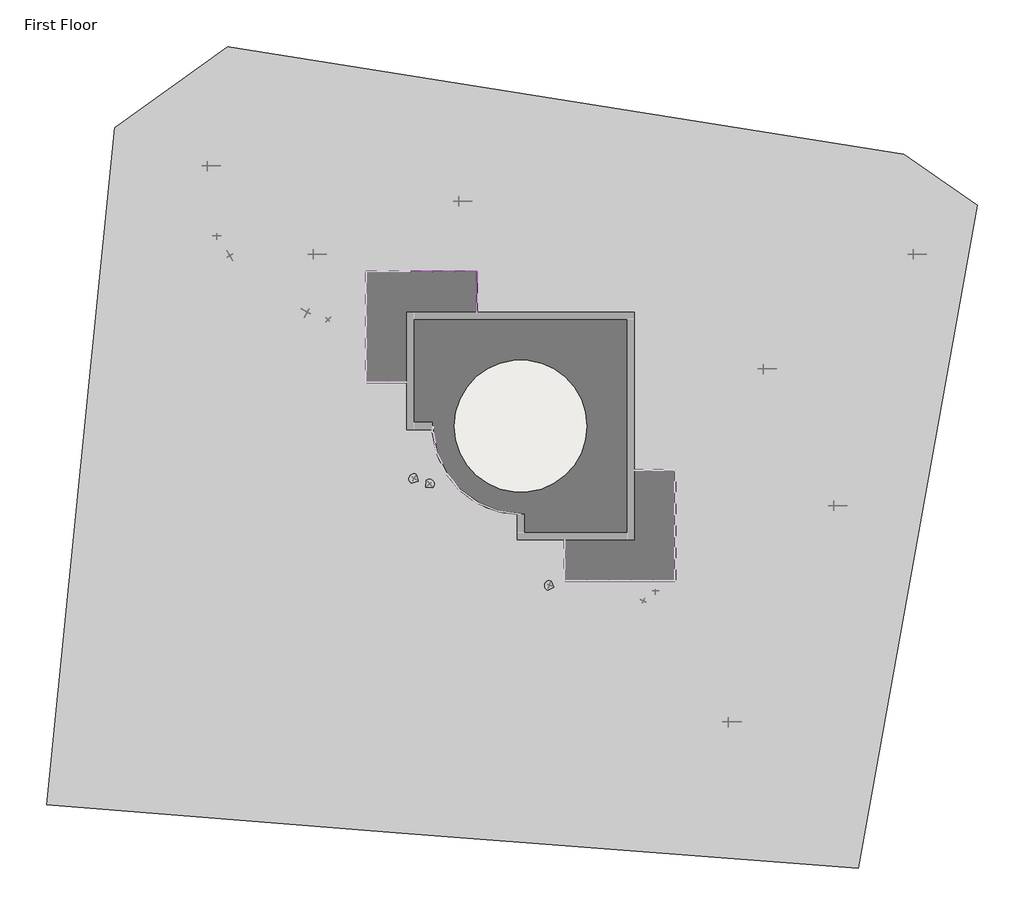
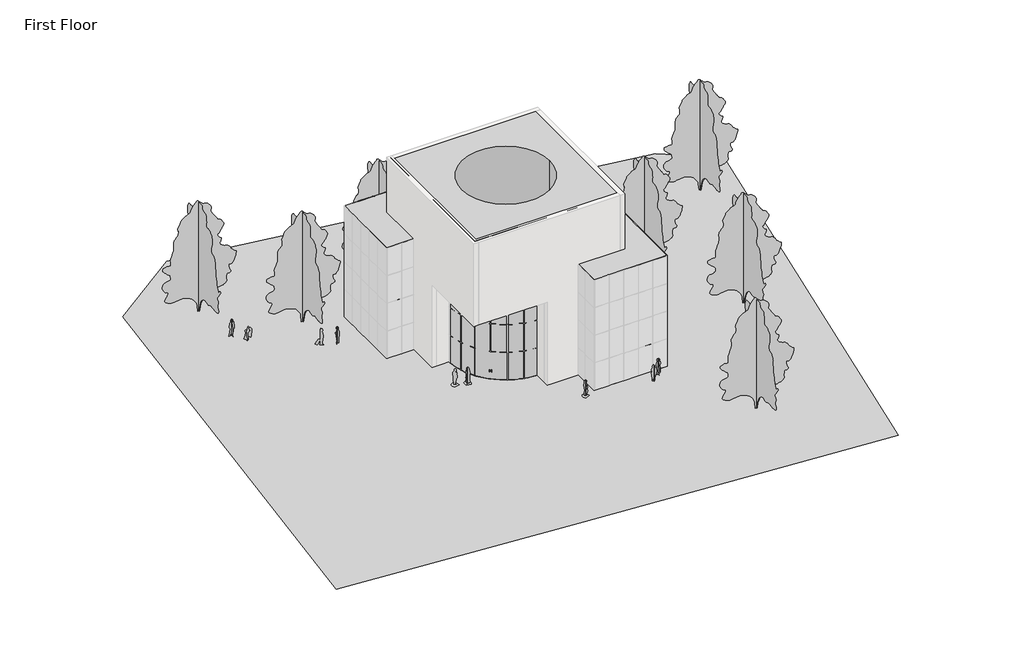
# One storey, part 5 of 5: 46 members, 16 plates, 12 proxies, 7 geographic elements, 4 slabs.
"""IFC4 building model written with IfcOpenShell, lengths in millimetres."""

from ifc_helpers import new_model, si_unit, point, frame, frame_2d, origin, origin_with_axes, place, context, project, spatial, polyline, circle_curve, trimmed, segment, composite_curve, outline, extrude, triangles, transform, mapped, element, save
from ifc_brep_helpers import plane_surface, cylinder_surface, revolved_surface, advanced_brep
from components import rpc_female_69e001fa, rpc_female_16ef0111, rpc_female_936a91ee, rpc_female_6119fb87, rpc_female_692637f3, rpc_male_28878092, rpc_male_2293c1c2, rpc_male_04e7faa4, rpc_tree_deciduous_lombardy_poplar_40_01077960, member_5e617a80, member_74941792, member_cbdb9076, member_7e523723, member_9fd3d903, member_6604d1e0, member_e0356dda, member_be0b070d, system_panel_glazed_9b7d687a, system_panel_glazed_9a901b4a, system_panel_glazed_2d5e1d3d, system_panel_glazed_37964ea6

model = new_model("IFC4")

# Units and contexts
model_context = context("Model", 3, world=origin())
ifc_project = project(units=[si_unit("LENGTHUNIT", "METRE", prefix="MILLI")], contexts=[model_context])

# Site, building, storey
site = spatial("IfcSite", under=ifc_project)
building = spatial("IfcBuilding", under=site)
storey = spatial("IfcBuildingStorey", under=building, Name="First Floor", Elevation=0.0)

# Proxies
placement = place(None, origin())
element("IfcBuildingElementProxy", 1, Name="Building Element Proxy", at=placement, inside=storey, context=model_context, shape_type="Tessellation", body=[
    triangles([(-30509.1400818, 19941.1409546, 0.0), (-31041.435498, -3413.2527054, 0.0), (-35218.2875244, -26825.7393311, 0.0), (-11096.4610565, -28781.5641357, 0.0), (20838.7117493, -31207.7044189, 0.0), (11856.2995605, -16582.4657318, 0.0), (17984.5475922, -6542.5709976, 0.0), (23509.9370728, 707.8938549, 0.0), (29082.4457703, 14569.5851074, 0.0), (23982.4059082, 18100.8079376, 0.0), (15246.3937958, 15623.4312469, 0.0), (1294.8513416, 15362.655304, 0.0), (-22696.5867188, 25532.9391724, 0.0)], [[3, 4, 2], [12, 2, 6], [3, 2, 1], [1, 12, 13], [12, 1, 2], [13, 12, 10], [2, 4, 6], [6, 5, 7], [5, 6, 4], [7, 5, 8], [7, 11, 12], [11, 8, 10], [8, 11, 7], [9, 10, 8], [8, 5, 9], [11, 10, 12], [7, 12, 6]], closed=False),
])
element("IfcBuildingElementProxy", 2, Name="Central Hall : Central Hall", ObjectType="Central Hall : Central Hall", at=placement, inside=storey, context=model_context, shape_type="AdvancedBrep", body=[
    advanced_brep(
    [(5148.8943843, 6934.0139224, 18288.0), (-10091.1056157, 6934.0139224, 18288.0), (-10091.1056157, -8305.9860776, 18288.0), (5148.8943843, -8305.9860776, 18288.0), (2100.8943843, -685.9860776, 18288.0), (-7043.1056157, -685.9860776, 18288.0), (5148.8943843, 6934.0139224, 0.0), (5148.8943843, -8305.9860776, 0.0), (-2471.1056157, -8305.9860776, 0.0), (-2471.1056157, -6781.9860776, 0.0), (-8567.1056157, -685.9860776, 0.0), (-10091.1056157, -685.9860776, 0.0), (-10091.1056157, 6934.0139224, 0.0), (-7043.1056157, -685.9860776, 0.0), (2100.8943843, -685.9860776, 0.0), (-10091.1056157, -685.9860776, 9144.0), (-10091.1056157, -8305.9860776, 9144.0), (-2471.1056157, -8305.9860776, 9144.0), (-2471.1056157, -6781.9860776, 9144.0), (-8567.1056157, -685.9860776, 9144.0)],
    [
        (0, 1),
        (1, 2),
        (2, 3),
        (3, 0),
        (4, 5, circle_curve(frame((-2471.1056157, -685.9860776, 18288.0), z_axis=(0.0, 0.0, -1.0), x_axis=(1.0, 0.0, 0.0)), 4572.0)),
        (5, 4, circle_curve(frame((-2471.1056157, -685.9860776, 18288.0), z_axis=(0.0, 0.0, -1.0), x_axis=(1.0, 0.0, 0.0)), 4572.0)),
        (6, 7),
        (7, 8),
        (8, 9),
        (9, 10, circle_curve(frame((-2471.1056157, -685.9860776, 0.0), z_axis=(0.0, 0.0, -1.0), x_axis=(1.0, 0.0, 0.0)), 6096.0)),
        (10, 11),
        (11, 12),
        (12, 6),
        (13, 14, circle_curve(frame((-2471.1056157, -685.9860776, 0.0), z_axis=(0.0, 0.0, 1.0), x_axis=(1.0, 0.0, 0.0)), 4572.0)),
        (14, 13, circle_curve(frame((-2471.1056157, -685.9860776, 0.0), z_axis=(0.0, 0.0, 1.0), x_axis=(1.0, 0.0, 0.0)), 4572.0)),
        (0, 6),
        (12, 1),
        (11, 15),
        (15, 16),
        (16, 2),
        (16, 17),
        (17, 8),
        (7, 3),
        (4, 14),
        (13, 5),
        (18, 17),
        (15, 19),
        (19, 18, circle_curve(frame((-2471.1056157, -685.9860776, 9144.0), z_axis=(0.0, 0.0, 1.0), x_axis=(1.0, 0.0, 0.0)), 6096.0)),
        (19, 10),
        (9, 18),
    ],
    [
        plane_surface(frame((-10091.1056157, 6934.0139224, 18288.0), z_axis=(0.0, 0.0, 1.0), x_axis=(-1.0, 0.0, 0.0))),
        plane_surface(frame((-10091.1056157, 6934.0139224, 0.0), z_axis=(0.0, 0.0, -1.0), x_axis=(1.0, 0.0, 0.0))),
        plane_surface(frame((5148.8943843, 6934.0139224, 18288.0), z_axis=(0.0, 1.0, 0.0), x_axis=(0.0, 0.0, -1.0))),
        plane_surface(frame((-10091.1056157, 6934.0139224, 18288.0), z_axis=(-1.0, 0.0, 0.0), x_axis=(0.0, 0.0, -1.0))),
        plane_surface(frame((-10091.1056157, -8305.9860776, 18288.0), z_axis=(0.0, -1.0, 0.0), x_axis=(0.0, 0.0, -1.0))),
        plane_surface(frame((5148.8943843, -8305.9860776, 18288.0), z_axis=(1.0, 0.0, 0.0), x_axis=(0.0, 0.0, -1.0))),
        revolved_surface(polyline([(2100.8943843, -685.9860776, 18288.0), (2100.8943843, -685.9860776, 0.0)]), (-2471.1056157, -685.9860776, 0.0), (0.0, 0.0, 1.0)),
        plane_surface(frame((3624.8943843, -685.9860776, 9144.0), z_axis=(0.0, 0.0, -1.0), x_axis=(0.0, -1.0, 0.0))),
        cylinder_surface(frame((-2471.1056157, -685.9860776, 0.0), z_axis=(0.0, 0.0, -1.0), x_axis=(1.0, 0.0, 0.0)), 6096.0),
        plane_surface(frame((-8567.1056157, -685.9860776, 9144.0), z_axis=(0.0, -1.0, 0.0), x_axis=(0.0, 0.0, -1.0))),
        plane_surface(frame((-2471.1056157, -8305.9860776, 9144.0), z_axis=(-1.0, 0.0, 0.0), x_axis=(0.0, 0.0, -1.0))),
    ],
    [
        (0, [[1, 2, 3, 4], [5, 6]]),
        (1, [[7, 8, 9, 10, 11, 12, 13], [14, 15]]),
        (2, [[-1, 16, -13, 17]]),
        (3, [[-2, -17, -12, 18, 19, 20]]),
        (4, [[-3, -20, 21, 22, -8, 23]]),
        (5, [[-4, -23, -7, -16]]),
        (6, [[24, -14, 25, -5]]),
        (6, [[-24, -6, -25, -15]]),
        (7, [[26, -21, -19, 27, 28]]),
        (8, [[-28, 29, -10, 30]]),
        (9, [[-27, -18, -11, -29]]),
        (10, [[-26, -30, -9, -22]]),
    ],
),
])
rpc_female_shape = rpc_female_69e001fa(model_context)
element("IfcBuildingElementProxy", 3, Name="RPC Female : Cynthia", ObjectType="RPC Female : Cynthia", at=placement, inside=storey, context=model_context, shape_type="MappedRepresentation", body=[
    mapped(rpc_female_shape, transform((-22638.0584336, 11228.1519874, 0.0), x_axis=(-0.866025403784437, -0.5000000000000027, 0.0), y_axis=(0.5000000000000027, -0.866025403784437, 0.0), z_axis=(0.0, 0.0, 1.0))),
])
rpc_female_2_shape = rpc_female_16ef0111(model_context)
element("IfcBuildingElementProxy", 4, Name="RPC Female : Cathy", ObjectType="RPC Female : Cathy", at=placement, inside=storey, context=model_context, shape_type="MappedRepresentation", body=[
    mapped(rpc_female_2_shape, transform((-17350.8475885, 7178.4889224, 0.0), x_axis=(0.49024578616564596, 0.8715842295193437, 0.0), y_axis=(-0.8715842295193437, 0.49024578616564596, 0.0), z_axis=(0.0, 0.0, 1.0))),
])
rpc_female_3_shape = rpc_female_936a91ee(model_context)
element("IfcBuildingElementProxy", 5, Name="RPC Female : Tina", ObjectType="RPC Female : Tina", at=placement, inside=storey, context=model_context, shape_type="MappedRepresentation", body=[
    mapped(rpc_female_3_shape, transform((-8779.4156747, -4697.1032307, 0.0), x_axis=(0.6427876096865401, -0.7660444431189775, 0.0), y_axis=(0.7660444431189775, 0.6427876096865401, 0.0), z_axis=(0.0, 0.0, 1.0))),
])
element("IfcBuildingElementProxy", 6, Name="RPC Female : Tina", ObjectType="RPC Female : Tina", at=placement, inside=storey, context=model_context, shape_type="MappedRepresentation", body=[
    mapped(rpc_female_3_shape, transform((6827.1881976, -12115.9860776, 0.0), x_axis=(1.0, 0.0, 0.0), y_axis=(0.0, 1.0, 0.0), z_axis=(0.0, 0.0, 1.0))),
])
rpc_female_4_shape = rpc_female_6119fb87(model_context)
element("IfcBuildingElementProxy", 7, Name="RPC Female : YinYin", ObjectType="RPC Female : YinYin", at=placement, inside=storey, context=model_context, shape_type="MappedRepresentation", body=[
    mapped(rpc_female_4_shape, transform((6007.5258646, -12704.4072292, 0.0), x_axis=(-0.9063077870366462, 0.4226182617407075, 0.0), y_axis=(-0.4226182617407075, -0.9063077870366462, 0.0), z_axis=(0.0, 0.0, 1.0))),
])
rpc_female_5_shape = rpc_female_692637f3(model_context)
element("IfcBuildingElementProxy", 8, Name="RPC Female : Florence", ObjectType="RPC Female : Florence", at=placement, inside=storey, context=model_context, shape_type="MappedRepresentation", body=[
    mapped(rpc_female_5_shape, transform((-486.7306157, -11698.9766059, 0.0), x_axis=(0.3420201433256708, 0.9396926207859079, 0.0), y_axis=(-0.9396926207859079, 0.3420201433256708, 0.0), z_axis=(0.0, 0.0, 1.0))),
])
rpc_male_shape = rpc_male_28878092(model_context)
element("IfcBuildingElementProxy", 9, Name="RPC Male : Dwayne", ObjectType="RPC Male : Dwayne", at=placement, inside=storey, context=model_context, shape_type="MappedRepresentation", body=[
    mapped(rpc_male_shape, transform((-15766.1511613, 6683.1889224, 0.0), x_axis=(-0.707106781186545, -0.7071067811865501, 0.0), y_axis=(0.7071067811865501, -0.707106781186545, 0.0), z_axis=(0.0, 0.0, 1.0))),
])
rpc_male_2_shape = rpc_male_2293c1c2(model_context)
element("IfcBuildingElementProxy", 10, Name="RPC Male : Alex", ObjectType="RPC Male : Alex", at=placement, inside=storey, context=model_context, shape_type="MappedRepresentation", body=[
    mapped(rpc_male_2_shape, transform((-23461.8248085, 12420.4139224, 0.0), x_axis=(1.0, 0.0, 0.0), y_axis=(0.0, 1.0, 0.0), z_axis=(0.0, 0.0, 1.0))),
])
rpc_male_3_shape = rpc_male_04e7faa4(model_context)
element("IfcBuildingElementProxy", 11, Name="RPC Male : Jay", ObjectType="RPC Male : Jay", at=placement, inside=storey, context=model_context, shape_type="MappedRepresentation", body=[
    mapped(rpc_male_3_shape, transform((-9840.2806157, -4318.7697773, 0.0), x_axis=(0.5000000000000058, 0.8660254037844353, 0.0), y_axis=(-0.8660254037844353, 0.5000000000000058, 0.0), z_axis=(0.0, 0.0, 1.0))),
])
element("IfcBuildingElementProxy", 12, Name="Wings : Wings", ObjectType="Wings : Wings", at=placement, inside=storey, context=model_context, shape_type="SweptSolid", body=[
    extrude(outline(polyline([(8196.8943843, -3733.9860776), (8196.8943843, -11353.9860776), (576.8943843, -11353.9860776), (576.8943843, -8305.9860776), (5148.8943843, -8305.9860776), (5148.8943843, -3733.9860776), (8196.8943843, -3733.9860776)])), origin_with_axes(), (0.0, 0.0, 1.0), 12192.0),
    extrude(outline(polyline([(-5519.1056157, 9982.0139224), (-5519.1056157, 6934.0139224), (-10091.1056157, 6934.0139224), (-10091.1056157, 2362.0139224), (-13139.1056157, 2362.0139224), (-13139.1056157, 9982.0139224), (-5519.1056157, 9982.0139224)])), origin_with_axes(), (0.0, 0.0, 1.0), 12192.0),
])

# Geographic elements
rpc_tree_deciduous_lombardy_poplar_40_shape = rpc_tree_deciduous_lombardy_poplar_40_01077960(model_context)
element("IfcGeographicElement", 13, ObjectType="RPC Tree - Deciduous : Lombardy Poplar - 40'", at=placement, inside=storey, context=model_context, shape_type="MappedRepresentation", body=[
    mapped(rpc_tree_deciduous_lombardy_poplar_40_shape, transform((-16796.7056157, 11201.2139224, 0.0), x_axis=(1.0, 0.0, 0.0), y_axis=(0.0, 1.0, 0.0), z_axis=(0.0, 0.0, 1.0))),
])
element("IfcGeographicElement", 14, ObjectType="RPC Tree - Deciduous : Lombardy Poplar - 40'", at=placement, inside=storey, context=model_context, shape_type="MappedRepresentation", body=[
    mapped(rpc_tree_deciduous_lombardy_poplar_40_shape, transform((11854.4943843, -21107.5860776, 0.0), x_axis=(1.0, 0.0, 0.0), y_axis=(0.0, 1.0, 0.0), z_axis=(0.0, 0.0, 1.0))),
])
element("IfcGeographicElement", 15, ObjectType="RPC Tree - Deciduous : Lombardy Poplar - 40'", at=placement, inside=storey, context=model_context, shape_type="MappedRepresentation", body=[
    mapped(rpc_tree_deciduous_lombardy_poplar_40_shape, transform((14292.8943843, 3273.2389224, 0.0), x_axis=(1.0, 0.0, 0.0), y_axis=(0.0, 1.0, 0.0), z_axis=(0.0, 0.0, 1.0))),
])
element("IfcGeographicElement", 16, ObjectType="RPC Tree - Deciduous : Lombardy Poplar - 40'", at=placement, inside=storey, context=model_context, shape_type="MappedRepresentation", body=[
    mapped(rpc_tree_deciduous_lombardy_poplar_40_shape, transform((-6738.3056157, 14858.8139224, 0.0), x_axis=(1.0, 0.0, 0.0), y_axis=(0.0, 1.0, 0.0), z_axis=(0.0, 0.0, 1.0))),
])
element("IfcGeographicElement", 17, ObjectType="RPC Tree - Deciduous : Lombardy Poplar - 40'", at=placement, inside=storey, context=model_context, shape_type="MappedRepresentation", body=[
    mapped(rpc_tree_deciduous_lombardy_poplar_40_shape, transform((-24111.9056157, 17297.2139224, 0.0), x_axis=(1.0, 0.0, 0.0), y_axis=(0.0, 1.0, 0.0), z_axis=(0.0, 0.0, 1.0))),
])
element("IfcGeographicElement", 18, ObjectType="RPC Tree - Deciduous : Lombardy Poplar - 40'", at=placement, inside=storey, context=model_context, shape_type="MappedRepresentation", body=[
    mapped(rpc_tree_deciduous_lombardy_poplar_40_shape, transform((19169.6943843, -6172.3860776, 0.0), x_axis=(1.0, 0.0, 0.0), y_axis=(0.0, 1.0, 0.0), z_axis=(0.0, 0.0, 1.0))),
])
element("IfcGeographicElement", 19, ObjectType="RPC Tree - Deciduous : Lombardy Poplar - 40'", at=placement, inside=storey, context=model_context, shape_type="MappedRepresentation", body=[
    mapped(rpc_tree_deciduous_lombardy_poplar_40_shape, transform((24652.9193843, 11201.2139224, 0.0), x_axis=(1.0, 0.0, 0.0), y_axis=(0.0, 1.0, 0.0), z_axis=(0.0, 0.0, 1.0))),
])

# Members
member_shape = member_5e617a80(model_context)
element("IfcMember", 20, ObjectType="Rectangular Mullion : 1\" Square", at=placement, inside=storey, context=model_context, shape_type="MappedRepresentation", body=[
    mapped(member_shape, transform((-7030.4056157, 9982.0139224, 3048.0), x_axis=(0.0, 0.0, 1.0), y_axis=(0.0, 1.0, 0.0), z_axis=(-1.0, 0.0, 0.0))),
])
element("IfcMember", 21, ObjectType="Rectangular Mullion : 1\" Square", at=placement, inside=storey, context=model_context, shape_type="MappedRepresentation", body=[
    mapped(member_shape, transform((-7030.4056157, 9982.0139224, 6096.0), x_axis=(0.0, 0.0, 1.0), y_axis=(0.0, 1.0, 0.0), z_axis=(-1.0, 0.0, 0.0))),
])
element("IfcMember", 22, ObjectType="Rectangular Mullion : 1\" Square", at=placement, inside=storey, context=model_context, shape_type="MappedRepresentation", body=[
    mapped(member_shape, transform((-7030.4056157, 9982.0139224, 9144.0), x_axis=(0.0, 0.0, 1.0), y_axis=(0.0, 1.0, 0.0), z_axis=(-1.0, 0.0, 0.0))),
])
member_2_shape = member_74941792(model_context)
element("IfcMember", 23, ObjectType="Rectangular Mullion : 1\" Square", at=placement, inside=storey, context=model_context, shape_type="MappedRepresentation", body=[
    mapped(member_2_shape, transform((-7030.4056157, 9982.0139224, 12192.0), x_axis=(0.0, 0.0, 1.0), y_axis=(0.0, 1.0, 0.0), z_axis=(-1.0, 0.0, 0.0))),
])
member_3_shape = member_cbdb9076(model_context)
element("IfcMember", 24, ObjectType="Rectangular Mullion : 1\" Square", at=placement, inside=storey, context=model_context, shape_type="MappedRepresentation", body=[
    mapped(member_3_shape, transform((-8567.1056157, 9982.0139224, 6096.0), x_axis=(-1.0, 0.0, 0.0), y_axis=(0.0, 1.0, 0.0), z_axis=(0.0, 0.0, -1.0))),
])
element("IfcMember", 25, ObjectType="Rectangular Mullion : 1\" Square", at=placement, inside=storey, context=model_context, shape_type="MappedRepresentation", body=[
    mapped(member_3_shape, transform((-7043.1056157, 9982.0139224, 3048.0), x_axis=(-1.0, 0.0, 0.0), y_axis=(0.0, 1.0, 0.0), z_axis=(0.0, 0.0, -1.0))),
])
element("IfcMember", 26, ObjectType="Rectangular Mullion : 1\" Square", at=placement, inside=storey, context=model_context, shape_type="MappedRepresentation", body=[
    mapped(member_3_shape, transform((-7043.1056157, 9982.0139224, 6096.0), x_axis=(-1.0, 0.0, 0.0), y_axis=(0.0, 1.0, 0.0), z_axis=(0.0, 0.0, -1.0))),
])
element("IfcMember", 27, ObjectType="Rectangular Mullion : 1\" Square", at=placement, inside=storey, context=model_context, shape_type="MappedRepresentation", body=[
    mapped(member_3_shape, transform((-8567.1056157, 9982.0139224, 3048.0), x_axis=(-1.0, 0.0, 0.0), y_axis=(0.0, 1.0, 0.0), z_axis=(0.0, 0.0, -1.0))),
])
element("IfcMember", 28, ObjectType="Rectangular Mullion : 1\" Square", at=placement, inside=storey, context=model_context, shape_type="MappedRepresentation", body=[
    mapped(member_3_shape, transform((-5519.1056157, 9978.8389224, 3048.0), x_axis=(0.0, 1.0, 0.0), y_axis=(1.0, 0.0, 0.0), z_axis=(0.0, 0.0, -1.0))),
])
element("IfcMember", 29, ObjectType="Rectangular Mullion : 1\" Square", at=placement, inside=storey, context=model_context, shape_type="MappedRepresentation", body=[
    mapped(member_3_shape, transform((-5519.1056157, 9978.8389224, 6096.0), x_axis=(0.0, 1.0, 0.0), y_axis=(1.0, 0.0, 0.0), z_axis=(0.0, 0.0, -1.0))),
])
element("IfcMember", 30, ObjectType="Rectangular Mullion : 1\" Square", at=placement, inside=storey, context=model_context, shape_type="MappedRepresentation", body=[
    mapped(member_3_shape, transform((-5519.1056157, 8454.8389224, 3048.0), x_axis=(0.0, 1.0, 0.0), y_axis=(1.0, 0.0, 0.0), z_axis=(0.0, 0.0, -1.0))),
])
element("IfcMember", 31, ObjectType="Rectangular Mullion : 1\" Square", at=placement, inside=storey, context=model_context, shape_type="MappedRepresentation", body=[
    mapped(member_3_shape, transform((-5519.1056157, 8454.8389224, 6096.0), x_axis=(0.0, 1.0, 0.0), y_axis=(1.0, 0.0, 0.0), z_axis=(0.0, 0.0, -1.0))),
])
element("IfcMember", 32, ObjectType="Rectangular Mullion : 1\" Square", at=placement, inside=storey, context=model_context, shape_type="MappedRepresentation", body=[
    mapped(member_3_shape, transform((-8567.1056157, 9982.0139224, 9144.0), x_axis=(-1.0, 0.0, 0.0), y_axis=(0.0, 1.0, 0.0), z_axis=(0.0, 0.0, -1.0))),
])
element("IfcMember", 33, ObjectType="Rectangular Mullion : 1\" Square", at=placement, inside=storey, context=model_context, shape_type="MappedRepresentation", body=[
    mapped(member_3_shape, transform((-7043.1056157, 9982.0139224, 9144.0), x_axis=(-1.0, 0.0, 0.0), y_axis=(0.0, 1.0, 0.0), z_axis=(0.0, 0.0, -1.0))),
])
element("IfcMember", 34, ObjectType="Rectangular Mullion : 1\" Square", at=placement, inside=storey, context=model_context, shape_type="MappedRepresentation", body=[
    mapped(member_3_shape, transform((-5519.1056157, 9978.8389224, 9144.0), x_axis=(0.0, 1.0, 0.0), y_axis=(1.0, 0.0, 0.0), z_axis=(0.0, 0.0, -1.0))),
])
element("IfcMember", 35, ObjectType="Rectangular Mullion : 1\" Square", at=placement, inside=storey, context=model_context, shape_type="MappedRepresentation", body=[
    mapped(member_3_shape, transform((-5519.1056157, 8454.8389224, 9144.0), x_axis=(0.0, 1.0, 0.0), y_axis=(1.0, 0.0, 0.0), z_axis=(0.0, 0.0, -1.0))),
])
element("IfcMember", 36, ObjectType="Rectangular Mullion : 1\" Square", at=placement, inside=storey, context=model_context, shape_type="MappedRepresentation", body=[
    mapped(member_3_shape, transform((-7043.1056157, 9982.0139224, 0.0), x_axis=(-1.0, 0.0, 0.0), y_axis=(0.0, 1.0, 0.0), z_axis=(0.0, 0.0, -1.0))),
])
element("IfcMember", 37, ObjectType="Rectangular Mullion : 1\" Square", at=placement, inside=storey, context=model_context, shape_type="MappedRepresentation", body=[
    mapped(member_3_shape, transform((-8567.1056157, 9982.0139224, 0.0), x_axis=(-1.0, 0.0, 0.0), y_axis=(0.0, 1.0, 0.0), z_axis=(0.0, 0.0, -1.0))),
])
element("IfcMember", 38, ObjectType="Rectangular Mullion : 1\" Square", at=placement, inside=storey, context=model_context, shape_type="MappedRepresentation", body=[
    mapped(member_3_shape, transform((-5519.1056157, 9978.8389224, 0.0), x_axis=(0.0, 1.0, 0.0), y_axis=(1.0, 0.0, 0.0), z_axis=(0.0, 0.0, -1.0))),
])
element("IfcMember", 39, ObjectType="Rectangular Mullion : 1\" Square", at=placement, inside=storey, context=model_context, shape_type="MappedRepresentation", body=[
    mapped(member_3_shape, transform((-5519.1056157, 8454.8389224, 0.0), x_axis=(0.0, 1.0, 0.0), y_axis=(1.0, 0.0, 0.0), z_axis=(0.0, 0.0, -1.0))),
])
element("IfcMember", 40, ObjectType="Rectangular Mullion : 1\" Square", at=placement, inside=storey, context=model_context, shape_type="MappedRepresentation", body=[
    mapped(member_2_shape, transform((-5544.5056157, 9982.0139224, 0.0), x_axis=(0.0, 0.0, -1.0), y_axis=(0.0, 1.0, 0.0), z_axis=(1.0, 0.0, 0.0))),
])
member_4_shape = member_7e523723(model_context)
element("IfcMember", 41, ObjectType="Rectangular Mullion : 1\" Square", at=placement, inside=storey, context=model_context, shape_type="MappedRepresentation", body=[
    mapped(member_4_shape, transform((-5519.1056157, 9982.0139224, 12192.0), x_axis=(1.0, 0.0, 0.0), y_axis=(0.0, 1.0, 0.0), z_axis=(0.0, 0.0, 1.0))),
])
element("IfcMember", 42, ObjectType="Rectangular Mullion : 1\" Square", at=placement, inside=storey, context=model_context, shape_type="MappedRepresentation", body=[
    mapped(member_4_shape, transform((-5519.1056157, 9982.0139224, 3048.0), x_axis=(1.0, 0.0, 0.0), y_axis=(0.0, 1.0, 0.0), z_axis=(0.0, 0.0, 1.0))),
])
element("IfcMember", 43, ObjectType="Rectangular Mullion : 1\" Square", at=placement, inside=storey, context=model_context, shape_type="MappedRepresentation", body=[
    mapped(member_4_shape, transform((-5519.1056157, 9982.0139224, 6096.0), x_axis=(1.0, 0.0, 0.0), y_axis=(0.0, 1.0, 0.0), z_axis=(0.0, 0.0, 1.0))),
])
element("IfcMember", 44, ObjectType="Rectangular Mullion : 1\" Square", at=placement, inside=storey, context=model_context, shape_type="MappedRepresentation", body=[
    mapped(member_4_shape, transform((-5519.1056157, 9982.0139224, 9144.0), x_axis=(1.0, 0.0, 0.0), y_axis=(0.0, 1.0, 0.0), z_axis=(0.0, 0.0, 1.0))),
])
member_5_shape = member_9fd3d903(model_context)
element("IfcMember", 45, ObjectType="Rectangular Mullion : 1\" Square", at=placement, inside=storey, context=model_context, shape_type="MappedRepresentation", body=[
    mapped(member_5_shape, transform((-8554.4056157, 9982.0139224, 3048.0), x_axis=(0.0, 0.0, 1.0), y_axis=(0.0, 1.0, 0.0), z_axis=(-1.0, 0.0, 0.0))),
])
element("IfcMember", 46, ObjectType="Rectangular Mullion : 1\" Square", at=placement, inside=storey, context=model_context, shape_type="MappedRepresentation", body=[
    mapped(member_5_shape, transform((-8554.4056157, 9982.0139224, 6096.0), x_axis=(0.0, 0.0, 1.0), y_axis=(0.0, 1.0, 0.0), z_axis=(-1.0, 0.0, 0.0))),
])
element("IfcMember", 47, ObjectType="Rectangular Mullion : 1\" Square", at=placement, inside=storey, context=model_context, shape_type="MappedRepresentation", body=[
    mapped(member_5_shape, transform((-8554.4056157, 9982.0139224, 9144.0), x_axis=(0.0, 0.0, 1.0), y_axis=(0.0, 1.0, 0.0), z_axis=(-1.0, 0.0, 0.0))),
])
element("IfcMember", 48, ObjectType="Rectangular Mullion : 1\" Square", at=placement, inside=storey, context=model_context, shape_type="MappedRepresentation", body=[
    mapped(member_5_shape, transform((-10078.4056157, 9982.0139224, 9144.0), x_axis=(0.0, 0.0, 1.0), y_axis=(0.0, 1.0, 0.0), z_axis=(-1.0, 0.0, 0.0))),
])
element("IfcMember", 49, ObjectType="Rectangular Mullion : 1\" Square", at=placement, inside=storey, context=model_context, shape_type="MappedRepresentation", body=[
    mapped(member_5_shape, transform((-5519.1056157, 9966.1389224, 3048.0), x_axis=(0.0, 0.0, 1.0), y_axis=(1.0, 0.0, 0.0), z_axis=(0.0, 1.0, 0.0))),
])
element("IfcMember", 50, ObjectType="Rectangular Mullion : 1\" Square", at=placement, inside=storey, context=model_context, shape_type="MappedRepresentation", body=[
    mapped(member_5_shape, transform((-5519.1056157, 9966.1389224, 6096.0), x_axis=(0.0, 0.0, 1.0), y_axis=(1.0, 0.0, 0.0), z_axis=(0.0, 1.0, 0.0))),
])
element("IfcMember", 51, ObjectType="Rectangular Mullion : 1\" Square", at=placement, inside=storey, context=model_context, shape_type="MappedRepresentation", body=[
    mapped(member_5_shape, transform((-5519.1056157, 9966.1389224, 9144.0), x_axis=(0.0, 0.0, 1.0), y_axis=(1.0, 0.0, 0.0), z_axis=(0.0, 1.0, 0.0))),
])
member_6_shape = member_6604d1e0(model_context)
element("IfcMember", 52, ObjectType="Rectangular Mullion : 1\" Square", at=placement, inside=storey, context=model_context, shape_type="MappedRepresentation", body=[
    mapped(member_6_shape, transform((-8554.4056157, 9982.0139224, 12192.0), x_axis=(0.0, 0.0, 1.0), y_axis=(0.0, 1.0, 0.0), z_axis=(-1.0, 0.0, 0.0))),
])
element("IfcMember", 53, ObjectType="Rectangular Mullion : 1\" Square", at=placement, inside=storey, context=model_context, shape_type="MappedRepresentation", body=[
    mapped(member_6_shape, transform((-5519.1056157, 9966.1389224, 12192.0), x_axis=(0.0, 0.0, 1.0), y_axis=(1.0, 0.0, 0.0), z_axis=(0.0, 1.0, 0.0))),
])
element("IfcMember", 54, ObjectType="Rectangular Mullion : 1\" Square", at=placement, inside=storey, context=model_context, shape_type="MappedRepresentation", body=[
    mapped(member_6_shape, transform((-7055.8056157, 9982.0139224, 0.0), x_axis=(0.0, 0.0, -1.0), y_axis=(0.0, 1.0, 0.0), z_axis=(1.0, 0.0, 0.0))),
])
element("IfcMember", 55, ObjectType="Rectangular Mullion : 1\" Square", at=placement, inside=storey, context=model_context, shape_type="MappedRepresentation", body=[
    mapped(member_6_shape, transform((-8579.8056157, 9982.0139224, 0.0), x_axis=(0.0, 0.0, -1.0), y_axis=(0.0, 1.0, 0.0), z_axis=(1.0, 0.0, 0.0))),
])
element("IfcMember", 56, ObjectType="Rectangular Mullion : 1\" Square", at=placement, inside=storey, context=model_context, shape_type="MappedRepresentation", body=[
    mapped(member_6_shape, transform((-10103.8056157, 9982.0139224, 0.0), x_axis=(0.0, 0.0, -1.0), y_axis=(0.0, 1.0, 0.0), z_axis=(1.0, 0.0, 0.0))),
])
element("IfcMember", 57, ObjectType="Rectangular Mullion : 1\" Square", at=placement, inside=storey, context=model_context, shape_type="MappedRepresentation", body=[
    mapped(member_6_shape, transform((-5519.1056157, 8467.5389224, 0.0), x_axis=(0.0, 0.0, -1.0), y_axis=(1.0, 0.0, 0.0), z_axis=(0.0, -1.0, 0.0))),
])
member_7_shape = member_e0356dda(model_context)
element("IfcMember", 58, ObjectType="Rectangular Mullion : 1\" Square", at=placement, inside=storey, context=model_context, shape_type="MappedRepresentation", body=[
    mapped(member_7_shape, transform((-5519.1056157, 8442.1389224, 3048.0), x_axis=(0.0, 0.0, 1.0), y_axis=(1.0, 0.0, 0.0), z_axis=(0.0, 1.0, 0.0))),
])
element("IfcMember", 59, ObjectType="Rectangular Mullion : 1\" Square", at=placement, inside=storey, context=model_context, shape_type="MappedRepresentation", body=[
    mapped(member_7_shape, transform((-5519.1056157, 8442.1389224, 6096.0), x_axis=(0.0, 0.0, 1.0), y_axis=(1.0, 0.0, 0.0), z_axis=(0.0, 1.0, 0.0))),
])
element("IfcMember", 60, ObjectType="Rectangular Mullion : 1\" Square", at=placement, inside=storey, context=model_context, shape_type="MappedRepresentation", body=[
    mapped(member_7_shape, transform((-5519.1056157, 8442.1389224, 9144.0), x_axis=(0.0, 0.0, 1.0), y_axis=(1.0, 0.0, 0.0), z_axis=(0.0, 1.0, 0.0))),
])
member_8_shape = member_be0b070d(model_context)
element("IfcMember", 61, ObjectType="Rectangular Mullion : 1\" Square", at=placement, inside=storey, context=model_context, shape_type="MappedRepresentation", body=[
    mapped(member_8_shape, transform((-5519.1056157, 8442.1389224, 12192.0), x_axis=(0.0, 0.0, 1.0), y_axis=(1.0, 0.0, 0.0), z_axis=(0.0, 1.0, 0.0))),
])
element("IfcMember", 62, ObjectType="Rectangular Mullion : 1\" Square", at=placement, inside=storey, context=model_context, shape_type="MappedRepresentation", body=[
    mapped(member_4_shape, transform((-5519.1056157, 9982.0139224, 3048.0), x_axis=(0.0, 1.0, 0.0), y_axis=(1.0, 0.0, 0.0), z_axis=(0.0, 0.0, -1.0))),
])
element("IfcMember", 63, ObjectType="Rectangular Mullion : 1\" Square", at=placement, inside=storey, context=model_context, shape_type="MappedRepresentation", body=[
    mapped(member_4_shape, transform((-5519.1056157, 9982.0139224, 6096.0), x_axis=(0.0, 1.0, 0.0), y_axis=(1.0, 0.0, 0.0), z_axis=(0.0, 0.0, -1.0))),
])
element("IfcMember", 64, ObjectType="Rectangular Mullion : 1\" Square", at=placement, inside=storey, context=model_context, shape_type="MappedRepresentation", body=[
    mapped(member_4_shape, transform((-5519.1056157, 9982.0139224, 9144.0), x_axis=(0.0, 1.0, 0.0), y_axis=(1.0, 0.0, 0.0), z_axis=(0.0, 0.0, -1.0))),
])
element("IfcMember", 65, ObjectType="Rectangular Mullion : 1\" Square", at=placement, inside=storey, context=model_context, shape_type="MappedRepresentation", body=[
    mapped(member_4_shape, transform((-5519.1056157, 9982.0139224, 0.0), x_axis=(0.0, 1.0, 0.0), y_axis=(1.0, 0.0, 0.0), z_axis=(0.0, 0.0, -1.0))),
])

# Plates
system_panel_glazed_shape = system_panel_glazed_9b7d687a(model_context)
element("IfcPlate", 66, ObjectType="System Panel : Glazed", at=placement, inside=storey, context=model_context, shape_type="MappedRepresentation", body=[
    mapped(system_panel_glazed_shape, transform((-6287.4556157, 9982.0139224, 25.4), x_axis=(-1.0, 0.0, 0.0), y_axis=(0.0, -1.0, 0.0), z_axis=(0.0, 0.0, 1.0))),
])
element("IfcPlate", 67, ObjectType="System Panel : Glazed", at=placement, inside=storey, context=model_context, shape_type="MappedRepresentation", body=[
    mapped(system_panel_glazed_shape, transform((-6287.4556157, 9982.0139224, 9156.7), x_axis=(-1.0, 0.0, 0.0), y_axis=(0.0, -1.0, 0.0), z_axis=(0.0, 0.0, 1.0))),
])
system_panel_glazed_2_shape = system_panel_glazed_9a901b4a(model_context)
element("IfcPlate", 68, ObjectType="System Panel : Glazed", at=placement, inside=storey, context=model_context, shape_type="MappedRepresentation", body=[
    mapped(system_panel_glazed_2_shape, transform((-6287.4556157, 9982.0139224, 3060.7), x_axis=(-1.0, 0.0, 0.0), y_axis=(0.0, -1.0, 0.0), z_axis=(0.0, 0.0, 1.0))),
])
element("IfcPlate", 69, ObjectType="System Panel : Glazed", at=placement, inside=storey, context=model_context, shape_type="MappedRepresentation", body=[
    mapped(system_panel_glazed_2_shape, transform((-6287.4556157, 9982.0139224, 6108.7), x_axis=(-1.0, 0.0, 0.0), y_axis=(0.0, -1.0, 0.0), z_axis=(0.0, 0.0, 1.0))),
])
system_panel_glazed_3_shape = system_panel_glazed_2d5e1d3d(model_context)
element("IfcPlate", 70, ObjectType="System Panel : Glazed", at=placement, inside=storey, context=model_context, shape_type="MappedRepresentation", body=[
    mapped(system_panel_glazed_3_shape, transform((-7805.1056157, 9982.0139224, 25.4), x_axis=(-1.0, 0.0, 0.0), y_axis=(0.0, -1.0, 0.0), z_axis=(0.0, 0.0, 1.0))),
])
element("IfcPlate", 71, ObjectType="System Panel : Glazed", at=placement, inside=storey, context=model_context, shape_type="MappedRepresentation", body=[
    mapped(system_panel_glazed_3_shape, transform((-9329.1056157, 9982.0139224, 25.4), x_axis=(-1.0, 0.0, 0.0), y_axis=(0.0, -1.0, 0.0), z_axis=(0.0, 0.0, 1.0))),
])
element("IfcPlate", 72, ObjectType="System Panel : Glazed", at=placement, inside=storey, context=model_context, shape_type="MappedRepresentation", body=[
    mapped(system_panel_glazed_3_shape, transform((-7805.1056157, 9982.0139224, 9156.7), x_axis=(-1.0, 0.0, 0.0), y_axis=(0.0, -1.0, 0.0), z_axis=(0.0, 0.0, 1.0))),
])
element("IfcPlate", 73, ObjectType="System Panel : Glazed", at=placement, inside=storey, context=model_context, shape_type="MappedRepresentation", body=[
    mapped(system_panel_glazed_3_shape, transform((-9329.1056157, 9982.0139224, 9156.7), x_axis=(-1.0, 0.0, 0.0), y_axis=(0.0, -1.0, 0.0), z_axis=(0.0, 0.0, 1.0))),
])
element("IfcPlate", 74, ObjectType="System Panel : Glazed", at=placement, inside=storey, context=model_context, shape_type="MappedRepresentation", body=[
    mapped(system_panel_glazed_3_shape, transform((-5519.1056157, 9216.8389224, 25.4), x_axis=(0.0, 1.0, 0.0), y_axis=(-1.0, 0.0, 0.0), z_axis=(0.0, 0.0, 1.0))),
])
element("IfcPlate", 75, ObjectType="System Panel : Glazed", at=placement, inside=storey, context=model_context, shape_type="MappedRepresentation", body=[
    mapped(system_panel_glazed_3_shape, transform((-5519.1056157, 9216.8389224, 9156.7), x_axis=(0.0, 1.0, 0.0), y_axis=(-1.0, 0.0, 0.0), z_axis=(0.0, 0.0, 1.0))),
])
system_panel_glazed_4_shape = system_panel_glazed_37964ea6(model_context)
element("IfcPlate", 76, ObjectType="System Panel : Glazed", at=placement, inside=storey, context=model_context, shape_type="MappedRepresentation", body=[
    mapped(system_panel_glazed_4_shape, transform((-7805.1056157, 9982.0139224, 3060.7), x_axis=(-1.0, 0.0, 0.0), y_axis=(0.0, -1.0, 0.0), z_axis=(0.0, 0.0, 1.0))),
])
element("IfcPlate", 77, ObjectType="System Panel : Glazed", at=placement, inside=storey, context=model_context, shape_type="MappedRepresentation", body=[
    mapped(system_panel_glazed_4_shape, transform((-9329.1056157, 9982.0139224, 3060.7), x_axis=(-1.0, 0.0, 0.0), y_axis=(0.0, -1.0, 0.0), z_axis=(0.0, 0.0, 1.0))),
])
element("IfcPlate", 78, ObjectType="System Panel : Glazed", at=placement, inside=storey, context=model_context, shape_type="MappedRepresentation", body=[
    mapped(system_panel_glazed_4_shape, transform((-7805.1056157, 9982.0139224, 6108.7), x_axis=(-1.0, 0.0, 0.0), y_axis=(0.0, -1.0, 0.0), z_axis=(0.0, 0.0, 1.0))),
])
element("IfcPlate", 79, ObjectType="System Panel : Glazed", at=placement, inside=storey, context=model_context, shape_type="MappedRepresentation", body=[
    mapped(system_panel_glazed_4_shape, transform((-9329.1056157, 9982.0139224, 6108.7), x_axis=(-1.0, 0.0, 0.0), y_axis=(0.0, -1.0, 0.0), z_axis=(0.0, 0.0, 1.0))),
])
element("IfcPlate", 80, ObjectType="System Panel : Glazed", at=placement, inside=storey, context=model_context, shape_type="MappedRepresentation", body=[
    mapped(system_panel_glazed_4_shape, transform((-5519.1056157, 9216.8389224, 3060.7), x_axis=(0.0, 1.0, 0.0), y_axis=(-1.0, 0.0, 0.0), z_axis=(0.0, 0.0, 1.0))),
])
element("IfcPlate", 81, ObjectType="System Panel : Glazed", at=placement, inside=storey, context=model_context, shape_type="MappedRepresentation", body=[
    mapped(system_panel_glazed_4_shape, transform((-5519.1056157, 9216.8389224, 6108.7), x_axis=(0.0, 1.0, 0.0), y_axis=(-1.0, 0.0, 0.0), z_axis=(0.0, 0.0, 1.0))),
])

# Slabs
element("IfcSlab", 82, ObjectType="LW Concrete on Metal Deck", at=placement, inside=storey, context=model_context, shape_type="SweptSolid", body=[
    extrude(outline(composite_curve([segment(polyline([(5148.8943843, 6934.0139224), (5148.8943843, -8305.9860776), (-2471.1056157, -8305.9860776), (-2471.1056157, -6781.9860776)]), True, "CONTINUOUS"), segment(trimmed(circle_curve(frame_2d((-2471.1056157, -685.9860776)), 6096.0), [point((-2471.1056157, -6781.9860776))], [point((-8567.1056157, -685.9860776))], False, "CARTESIAN"), True, "CONTINUOUS"), segment(polyline([(-8567.1056157, -685.9860776), (-10091.1056157, -685.9860776), (-10091.1056157, 6934.0139224), (5148.8943843, 6934.0139224)]), True, "CONTINUOUS")], self_intersect=False)), frame((0.0, 0.0, -104.775), z_axis=(0.0, 0.0, 1.0), x_axis=(1.0, 0.0, 0.0)), (0.0, 0.0, 1.0), 104.775),
])
element("IfcSlab", 83, ObjectType="LW Concrete on Metal Deck", at=placement, inside=storey, context=model_context, shape_type="SweptSolid", body=[
    extrude(outline(polyline([(8196.8943843, -3733.9860776), (8196.8943843, -11353.9860776), (576.8943843, -11353.9860776), (576.8943843, -8305.9860776), (5148.8943843, -8305.9860776), (5148.8943843, -3733.9860776), (8196.8943843, -3733.9860776)])), frame((0.0, 0.0, -104.775), z_axis=(0.0, 0.0, 1.0), x_axis=(1.0, 0.0, 0.0)), (0.0, 0.0, 1.0), 104.775),
    extrude(outline(polyline([(-5519.1056157, 9982.0139224), (-5519.1056157, 6934.0139224), (-10091.1056157, 6934.0139224), (-10091.1056157, 2362.0139224), (-13139.1056157, 2362.0139224), (-13139.1056157, 9982.0139224), (-5519.1056157, 9982.0139224)])), frame((0.0, 0.0, -104.775), z_axis=(0.0, 0.0, 1.0), x_axis=(1.0, 0.0, 0.0)), (0.0, 0.0, 1.0), 104.775),
])
element("IfcSlab", 84, ObjectType="LW Concrete on Metal Deck", at=placement, inside=storey, context=model_context, shape_type="SweptSolid", body=[
    extrude(outline(composite_curve([segment(polyline([(5148.8943843, 6934.0139224), (5148.8943843, -8305.9860776), (-2471.1056157, -8305.9860776), (-2471.1056157, -6781.9860776)]), True, "CONTINUOUS"), segment(trimmed(circle_curve(frame_2d((-2471.1056157, -685.9860776)), 6096.0), [point((-2471.1056157, -6781.9860776))], [point((-8567.1056157, -685.9860776))], False, "CARTESIAN"), True, "CONTINUOUS"), segment(polyline([(-8567.1056157, -685.9860776), (-10091.1056157, -685.9860776), (-10091.1056157, 6934.0139224), (5148.8943843, 6934.0139224)]), True, "CONTINUOUS")], self_intersect=False)), frame((0.0, 0.0, -104.775), z_axis=(0.0, 0.0, 1.0), x_axis=(1.0, 0.0, 0.0)), (0.0, 0.0, 1.0), 104.775),
])
element("IfcSlab", 85, ObjectType="LW Concrete on Metal Deck", at=placement, inside=storey, context=model_context, shape_type="SweptSolid", body=[
    extrude(outline(polyline([(8196.8943843, -3733.9860776), (8196.8943843, -11353.9860776), (576.8943843, -11353.9860776), (576.8943843, -8305.9860776), (5148.8943843, -8305.9860776), (5148.8943843, -3733.9860776), (8196.8943843, -3733.9860776)])), frame((0.0, 0.0, -104.775), z_axis=(0.0, 0.0, 1.0), x_axis=(1.0, 0.0, 0.0)), (0.0, 0.0, 1.0), 104.775),
    extrude(outline(polyline([(-5519.1056157, 9982.0139224), (-5519.1056157, 6934.0139224), (-10091.1056157, 6934.0139224), (-10091.1056157, 2362.0139224), (-13139.1056157, 2362.0139224), (-13139.1056157, 9982.0139224), (-5519.1056157, 9982.0139224)])), frame((0.0, 0.0, -104.775), z_axis=(0.0, 0.0, 1.0), x_axis=(1.0, 0.0, 0.0)), (0.0, 0.0, 1.0), 104.775),
])

save(model, "model.ifc")
